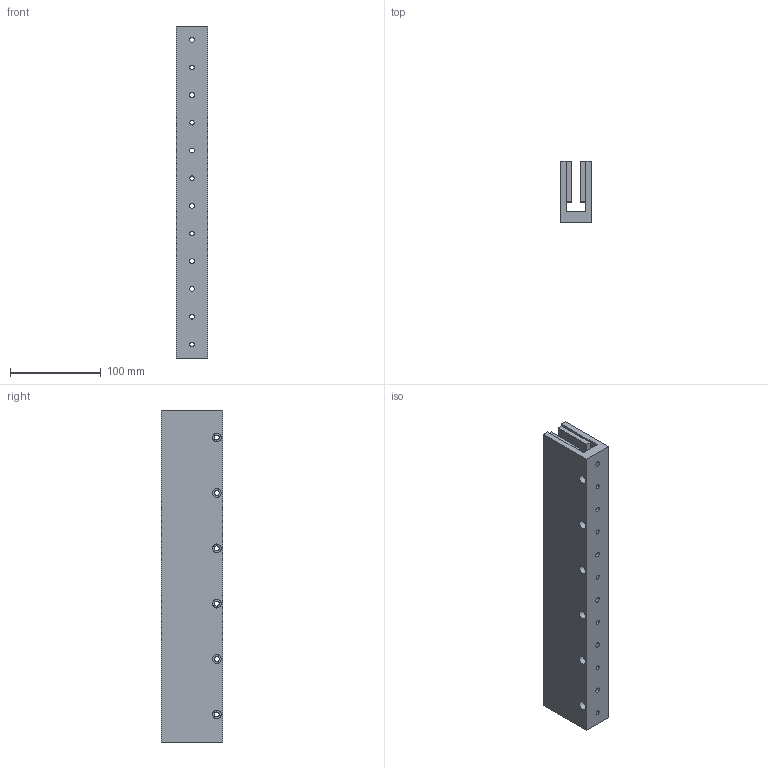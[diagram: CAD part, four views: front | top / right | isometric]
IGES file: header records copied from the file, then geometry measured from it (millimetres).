
Global section: file name: No Iges File Name specified; native system: Autodesk Inventor 2012; preprocessor: AutoDesk Inventor Iges Exporter R2012; author: je17857; date: 20120511.155304; units: inch
Bounding box: 34.29 x 67.31 x 365.51 mm (x, y, z)
Volume: 538866 mm3; surface area: 142224.1 mm2
Topology: 1 solids, 1 shells, 184 faces, 426 edges, 286 vertices
Faces by surface type: plane 148, revolution 36
